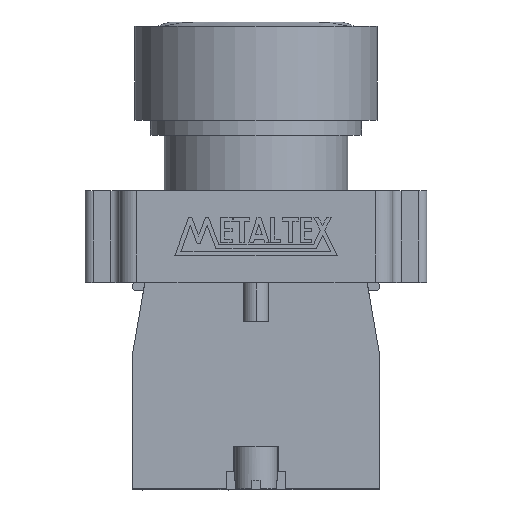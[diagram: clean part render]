
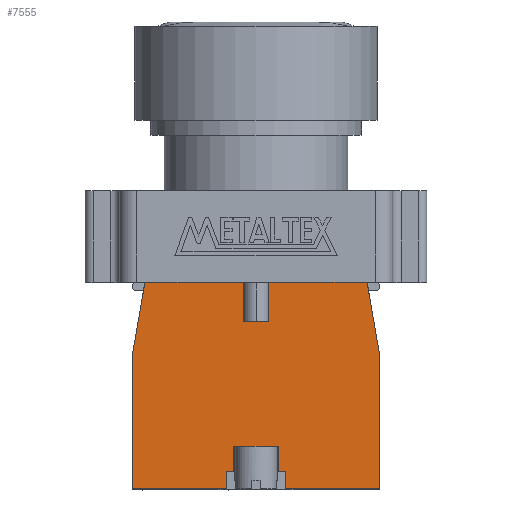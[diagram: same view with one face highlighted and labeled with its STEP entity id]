
A CAD part, top view. The second image highlights one B-rep face of the part: STEP entity #7555.
In plain terms, the highlighted planar face has unit normal (0, 0, 1).
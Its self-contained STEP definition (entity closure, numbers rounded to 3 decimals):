
#584 = LINE ( 'NONE', #585, #2080 ) ;
#585 = CARTESIAN_POINT ( 'NONE',  ( -14.5, 0., 7.45 ) ) ;
#586 = DIRECTION ( 'NONE',  ( 1., 0., 0. ) ) ;
#593 = LINE ( 'NONE', #594, #2091 ) ;
#594 = CARTESIAN_POINT ( 'NONE',  ( -14.5, 0., 7.45 ) ) ;
#595 = DIRECTION ( 'NONE',  ( 1., 0., 0. ) ) ;
#660 = VERTEX_POINT ( 'NONE', #8173 ) ;
#664 = VERTEX_POINT ( 'NONE', #8175 ) ;
#677 = VERTEX_POINT ( 'NONE', #8182 ) ;
#679 = VERTEX_POINT ( 'NONE', #8183 ) ;
#684 = VERTEX_POINT ( 'NONE', #8186 ) ;
#692 = VERTEX_POINT ( 'NONE', #8190 ) ;
#697 = VERTEX_POINT ( 'NONE', #8193 ) ;
#718 = VERTEX_POINT ( 'NONE', #8204 ) ;
#719 = VERTEX_POINT ( 'NONE', #8205 ) ;
#749 = VERTEX_POINT ( 'NONE', #8221 ) ;
#753 = VERTEX_POINT ( 'NONE', #8223 ) ;
#817 = VERTEX_POINT ( 'NONE', #8280 ) ;
#818 = VERTEX_POINT ( 'NONE', #8281 ) ;
#836 = VERTEX_POINT ( 'NONE', #8299 ) ;
#854 = VERTEX_POINT ( 'NONE', #8317 ) ;
#855 = VERTEX_POINT ( 'NONE', #8318 ) ;
#856 = VERTEX_POINT ( 'NONE', #8319 ) ;
#860 = VERTEX_POINT ( 'NONE', #8323 ) ;
#2066 = VECTOR ( 'NONE', #5554, 1000. ) ;
#2080 = VECTOR ( 'NONE', #586, 1000. ) ;
#2088 = VECTOR ( 'NONE', #5533, 1000. ) ;
#2091 = VECTOR ( 'NONE', #595, 1000. ) ;
#2102 = VECTOR ( 'NONE', #5515, 1000. ) ;
#2153 = VECTOR ( 'NONE', #9790, 1000. ) ;
#2161 = VECTOR ( 'NONE', #9778, 1000. ) ;
#2170 = VECTOR ( 'NONE', #9757, 1000. ) ;
#2324 = VECTOR ( 'NONE', #10149, 1000. ) ;
#2328 = VECTOR ( 'NONE', #10144, 1000. ) ;
#2329 = VECTOR ( 'NONE', #10155, 1000. ) ;
#2332 = VECTOR ( 'NONE', #10167, 1000. ) ;
#2341 = VECTOR ( 'NONE', #10120, 1000. ) ;
#2377 = VECTOR ( 'NONE', #10161, 1000. ) ;
#2553 = VECTOR ( 'NONE', #10179, 1000. ) ;
#2556 = VECTOR ( 'NONE', #10185, 1000. ) ;
#2566 = VECTOR ( 'NONE', #10173, 1000. ) ;
#2568 = VECTOR ( 'NONE', #10191, 1000. ) ;
#3026 = PLANE ( 'NONE',  #8873 ) ;
#3027 = CARTESIAN_POINT ( 'NONE',  ( 0., 0., 7.45 ) ) ;
#3028 = DIRECTION ( 'NONE',  ( 0., 0., 1. ) ) ;
#3029 = DIRECTION ( 'NONE',  ( 1., 0., 0. ) ) ;
#3961 = EDGE_CURVE ( 'NONE', #817, #818, #584, .T. ) ;
#3964 = EDGE_CURVE ( 'NONE', #697, #836, #593, .T. ) ;
#4002 = EDGE_CURVE ( 'NONE', #818, #679, #10116, .T. ) ;
#4006 = EDGE_CURVE ( 'NONE', #684, #692, #10140, .T. ) ;
#4007 = EDGE_CURVE ( 'NONE', #753, #660, #10146, .T. ) ;
#4008 = EDGE_CURVE ( 'NONE', #836, #855, #10151, .T. ) ;
#4009 = EDGE_CURVE ( 'NONE', #855, #856, #10157, .T. ) ;
#4010 = EDGE_CURVE ( 'NONE', #856, #719, #10163, .T. ) ;
#4011 = EDGE_CURVE ( 'NONE', #860, #718, #10169, .T. ) ;
#4012 = EDGE_CURVE ( 'NONE', #860, #854, #10175, .T. ) ;
#4013 = EDGE_CURVE ( 'NONE', #817, #854, #10181, .T. ) ;
#4014 = EDGE_CURVE ( 'NONE', #749, #664, #10187, .T. ) ;
#4160 = ORIENTED_EDGE ( 'NONE', *, *, #7287, .T. ) ;
#4162 = ORIENTED_EDGE ( 'NONE', *, *, #4014, .F. ) ;
#4163 = ORIENTED_EDGE ( 'NONE', *, *, #7247, .T. ) ;
#4164 = ORIENTED_EDGE ( 'NONE', *, *, #4002, .T. ) ;
#4165 = ORIENTED_EDGE ( 'NONE', *, *, #7236, .T. ) ;
#4166 = ORIENTED_EDGE ( 'NONE', *, *, #3961, .T. ) ;
#4167 = ORIENTED_EDGE ( 'NONE', *, *, #4012, .T. ) ;
#4168 = ORIENTED_EDGE ( 'NONE', *, *, #4013, .F. ) ;
#4169 = ORIENTED_EDGE ( 'NONE', *, *, #4011, .F. ) ;
#4170 = ORIENTED_EDGE ( 'NONE', *, *, #7281, .F. ) ;
#4171 = ORIENTED_EDGE ( 'NONE', *, *, #4009, .T. ) ;
#4172 = ORIENTED_EDGE ( 'NONE', *, *, #4010, .T. ) ;
#4173 = ORIENTED_EDGE ( 'NONE', *, *, #4008, .T. ) ;
#4174 = ORIENTED_EDGE ( 'NONE', *, *, #3964, .T. ) ;
#4175 = ORIENTED_EDGE ( 'NONE', *, *, #7243, .T. ) ;
#4176 = ORIENTED_EDGE ( 'NONE', *, *, #7294, .T. ) ;
#4177 = ORIENTED_EDGE ( 'NONE', *, *, #4007, .T. ) ;
#4178 = ORIENTED_EDGE ( 'NONE', *, *, #4006, .T. ) ;
#4391 = EDGE_LOOP ( 'NONE', ( #4177, #4175, #4178, #4176, #4174, #4173, #4171, #4172, #4170, #4169, #4167, #4168, #4166, #4164, #4165, #4163, #4162, #4160 ) ) ;
#5513 = LINE ( 'NONE', #5514, #2102 ) ;
#5514 = CARTESIAN_POINT ( 'NONE',  ( 0., 5., 7.45 ) ) ;
#5515 = DIRECTION ( 'NONE',  ( -1., 0., 0. ) ) ;
#5531 = LINE ( 'NONE', #5532, #2088 ) ;
#5532 = CARTESIAN_POINT ( 'NONE',  ( 0., 19.6, 7.45 ) ) ;
#5533 = DIRECTION ( 'NONE',  ( -1., 0., 0. ) ) ;
#5552 = LINE ( 'NONE', #5553, #2066 ) ;
#5553 = CARTESIAN_POINT ( 'NONE',  ( -14.5, 15.5, 7.45 ) ) ;
#5554 = DIRECTION ( 'NONE',  ( 0., -1., 0. ) ) ;
#7236 = EDGE_CURVE ( 'NONE', #679, #677, #9755, .T. ) ;
#7243 = EDGE_CURVE ( 'NONE', #660, #684, #9776, .T. ) ;
#7247 = EDGE_CURVE ( 'NONE', #677, #664, #9788, .T. ) ;
#7281 = EDGE_CURVE ( 'NONE', #718, #719, #5513, .T. ) ;
#7287 = EDGE_CURVE ( 'NONE', #749, #753, #5531, .T. ) ;
#7294 = EDGE_CURVE ( 'NONE', #692, #697, #5552, .T. ) ;
#7555 = ADVANCED_FACE ( 'NONE', ( #8876 ), #3026, .T. ) ;
#8173 = CARTESIAN_POINT ( 'NONE',  ( -1.5, 24.2, 7.45 ) ) ;
#8175 = CARTESIAN_POINT ( 'NONE',  ( 1.5, 24.2, 7.45 ) ) ;
#8182 = CARTESIAN_POINT ( 'NONE',  ( 13., 24.2, 7.45 ) ) ;
#8183 = CARTESIAN_POINT ( 'NONE',  ( 14.5, 15.5, 7.45 ) ) ;
#8186 = CARTESIAN_POINT ( 'NONE',  ( -13., 24.2, 7.45 ) ) ;
#8190 = CARTESIAN_POINT ( 'NONE',  ( -14.5, 15.5, 7.45 ) ) ;
#8193 = CARTESIAN_POINT ( 'NONE',  ( -14.5, 0., 7.45 ) ) ;
#8204 = CARTESIAN_POINT ( 'NONE',  ( 2.6, 5., 7.45 ) ) ;
#8205 = CARTESIAN_POINT ( 'NONE',  ( -2.6, 5., 7.45 ) ) ;
#8221 = CARTESIAN_POINT ( 'NONE',  ( 1.5, 19.6, 7.45 ) ) ;
#8223 = CARTESIAN_POINT ( 'NONE',  ( -1.5, 19.6, 7.45 ) ) ;
#8280 = CARTESIAN_POINT ( 'NONE',  ( 3.5, 0., 7.45 ) ) ;
#8281 = CARTESIAN_POINT ( 'NONE',  ( 14.5, 0., 7.45 ) ) ;
#8299 = CARTESIAN_POINT ( 'NONE',  ( -3.5, 0., 7.45 ) ) ;
#8317 = CARTESIAN_POINT ( 'NONE',  ( 3.5, 2., 7.45 ) ) ;
#8318 = CARTESIAN_POINT ( 'NONE',  ( -3.5, 2., 7.45 ) ) ;
#8319 = CARTESIAN_POINT ( 'NONE',  ( -2.6, 2., 7.45 ) ) ;
#8323 = CARTESIAN_POINT ( 'NONE',  ( 2.6, 2., 7.45 ) ) ;
#8873 = AXIS2_PLACEMENT_3D ( 'NONE', #3027, #3028, #3029 ) ;
#8876 = FACE_OUTER_BOUND ( 'NONE', #4391, .T. ) ;
#9755 = LINE ( 'NONE', #9756, #2170 ) ;
#9756 = CARTESIAN_POINT ( 'NONE',  ( 14.5, 15.5, 7.45 ) ) ;
#9757 = DIRECTION ( 'NONE',  ( -0.17, 0.985, 0. ) ) ;
#9776 = LINE ( 'NONE', #9777, #2161 ) ;
#9777 = CARTESIAN_POINT ( 'NONE',  ( 13., 24.2, 7.45 ) ) ;
#9778 = DIRECTION ( 'NONE',  ( -1., 0., 0. ) ) ;
#9788 = LINE ( 'NONE', #9789, #2153 ) ;
#9789 = CARTESIAN_POINT ( 'NONE',  ( 13., 24.2, 7.45 ) ) ;
#9790 = DIRECTION ( 'NONE',  ( -1., 0., 0. ) ) ;
#10116 = LINE ( 'NONE', #10118, #2341 ) ;
#10118 = CARTESIAN_POINT ( 'NONE',  ( 14.5, 0., 7.45 ) ) ;
#10120 = DIRECTION ( 'NONE',  ( 0., 1., 0. ) ) ;
#10140 = LINE ( 'NONE', #10142, #2328 ) ;
#10142 = CARTESIAN_POINT ( 'NONE',  ( -13., 24.2, 7.45 ) ) ;
#10144 = DIRECTION ( 'NONE',  ( -0.17, -0.985, 0. ) ) ;
#10146 = LINE ( 'NONE', #10148, #2324 ) ;
#10148 = CARTESIAN_POINT ( 'NONE',  ( -1.5, 19.6, 7.45 ) ) ;
#10149 = DIRECTION ( 'NONE',  ( 0., 1., 0. ) ) ;
#10151 = LINE ( 'NONE', #10153, #2329 ) ;
#10153 = CARTESIAN_POINT ( 'NONE',  ( -3.5, 0., 7.45 ) ) ;
#10155 = DIRECTION ( 'NONE',  ( 0., 1., 0. ) ) ;
#10157 = LINE ( 'NONE', #10159, #2377 ) ;
#10159 = CARTESIAN_POINT ( 'NONE',  ( 0., 2., 7.45 ) ) ;
#10161 = DIRECTION ( 'NONE',  ( 1., 0., 0. ) ) ;
#10163 = LINE ( 'NONE', #10165, #2332 ) ;
#10165 = CARTESIAN_POINT ( 'NONE',  ( -2.6, 0., 7.45 ) ) ;
#10167 = DIRECTION ( 'NONE',  ( 0., 1., 0. ) ) ;
#10169 = LINE ( 'NONE', #10171, #2566 ) ;
#10171 = CARTESIAN_POINT ( 'NONE',  ( 2.6, 0., 7.45 ) ) ;
#10173 = DIRECTION ( 'NONE',  ( 0., 1., 0. ) ) ;
#10175 = LINE ( 'NONE', #10177, #2553 ) ;
#10177 = CARTESIAN_POINT ( 'NONE',  ( 0., 2., 7.45 ) ) ;
#10179 = DIRECTION ( 'NONE',  ( 1., 0., 0. ) ) ;
#10181 = LINE ( 'NONE', #10183, #2556 ) ;
#10183 = CARTESIAN_POINT ( 'NONE',  ( 3.5, 0., 7.45 ) ) ;
#10185 = DIRECTION ( 'NONE',  ( 0., 1., 0. ) ) ;
#10187 = LINE ( 'NONE', #10189, #2568 ) ;
#10189 = CARTESIAN_POINT ( 'NONE',  ( 1.5, 19.6, 7.45 ) ) ;
#10191 = DIRECTION ( 'NONE',  ( 0., 1., 0. ) ) ;
